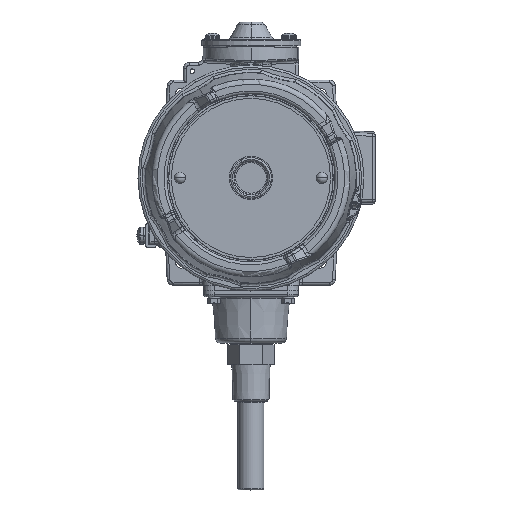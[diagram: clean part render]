
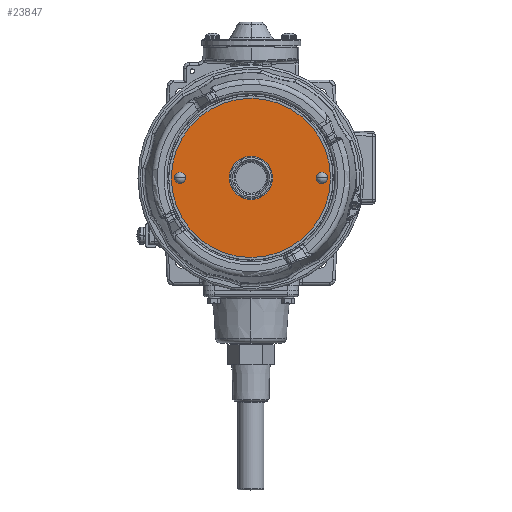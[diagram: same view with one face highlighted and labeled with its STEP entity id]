
A CAD part, top view. The second image highlights one B-rep face of the part: STEP entity #23847.
In plain terms, the highlighted planar face has unit normal (0, 0, 1).
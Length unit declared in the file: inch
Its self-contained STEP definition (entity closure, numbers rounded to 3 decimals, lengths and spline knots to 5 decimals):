
#263 = CARTESIAN_POINT ( 'NONE',  ( -1.719, 0., 4.817 ) ) ;
#1839 = DIRECTION ( 'NONE',  ( 0., 0., 1. ) ) ;
#2752 = PLANE ( 'NONE',  #13941 ) ;
#3371 = EDGE_CURVE ( 'NONE', #27436, #77107, #80394, .T. ) ;
#4897 = CIRCLE ( 'NONE', #46449, 1.71875 ) ;
#5522 = CARTESIAN_POINT ( 'NONE',  ( -1.6095, 0., 4.817 ) ) ;
#7290 = DIRECTION ( 'NONE',  ( 0., 0., 1. ) ) ;
#7582 = EDGE_CURVE ( 'NONE', #26273, #24721, #72925, .T. ) ;
#8219 = DIRECTION ( 'NONE',  ( 0., 0., 1. ) ) ;
#9236 = AXIS2_PLACEMENT_3D ( 'NONE', #37850, #45167, #13489 ) ;
#9256 = CARTESIAN_POINT ( 'NONE',  ( -0.00025, 0., 4.817 ) ) ;
#13128 = DIRECTION ( 'NONE',  ( 1., 0., 0. ) ) ;
#13489 = DIRECTION ( 'NONE',  ( 1., 0., 0. ) ) ;
#13941 = AXIS2_PLACEMENT_3D ( 'NONE', #9256, #45439, #26362 ) ;
#14491 = ORIENTED_EDGE ( 'NONE', *, *, #60547, .T. ) ;
#14707 = CARTESIAN_POINT ( 'NONE',  ( -0.00025, 0., 4.817 ) ) ;
#15907 = EDGE_CURVE ( 'NONE', #61415, #50347, #72195, .T. ) ;
#16745 = CARTESIAN_POINT ( 'NONE',  ( 1.453, 0., 4.817 ) ) ;
#17658 = AXIS2_PLACEMENT_3D ( 'NONE', #25196, #7290, #32086 ) ;
#19207 = ORIENTED_EDGE ( 'NONE', *, *, #15907, .T. ) ;
#20165 = CARTESIAN_POINT ( 'NONE',  ( -0.00025, 0., 4.817 ) ) ;
#20687 = FACE_BOUND ( 'NONE', #25107, .T. ) ;
#20831 = DIRECTION ( 'NONE',  ( 1., 0., 0. ) ) ;
#23355 = DIRECTION ( 'NONE',  ( 0., 0., 1. ) ) ;
#23847 = ADVANCED_FACE ( 'NONE', ( #38936, #33251, #76777, #20687 ), #2752, .T. ) ;
#24721 = VERTEX_POINT ( 'NONE', #33723 ) ;
#25107 = EDGE_LOOP ( 'NONE', ( #45138, #54163 ) ) ;
#25196 = CARTESIAN_POINT ( 'NONE',  ( -0.00025, 0., 4.817 ) ) ;
#25723 = CARTESIAN_POINT ( 'NONE',  ( 0.4685, 0., 4.817 ) ) ;
#25829 = AXIS2_PLACEMENT_3D ( 'NONE', #20165, #1839, #44929 ) ;
#26273 = VERTEX_POINT ( 'NONE', #5522 ) ;
#26362 = DIRECTION ( 'NONE',  ( 1., 0., 0. ) ) ;
#26901 = DIRECTION ( 'NONE',  ( 1., 0., 0. ) ) ;
#26907 = DIRECTION ( 'NONE',  ( 0., 0., 1. ) ) ;
#27356 = EDGE_CURVE ( 'NONE', #57819, #51162, #76460, .T. ) ;
#27436 = VERTEX_POINT ( 'NONE', #66845 ) ;
#32086 = DIRECTION ( 'NONE',  ( 1., 0., 0. ) ) ;
#32196 = CARTESIAN_POINT ( 'NONE',  ( 1.531, 0., 4.817 ) ) ;
#33251 = FACE_OUTER_BOUND ( 'NONE', #41066, .T. ) ;
#33723 = CARTESIAN_POINT ( 'NONE',  ( -1.4535, 0., 4.817 ) ) ;
#33802 = DIRECTION ( 'NONE',  ( 0., 0., 1. ) ) ;
#34759 = EDGE_CURVE ( 'NONE', #24721, #26273, #66475, .T. ) ;
#37850 = CARTESIAN_POINT ( 'NONE',  ( -1.5315, 0., 4.817 ) ) ;
#38273 = ORIENTED_EDGE ( 'NONE', *, *, #7582, .F. ) ;
#38936 = FACE_BOUND ( 'NONE', #71102, .T. ) ;
#41032 = CARTESIAN_POINT ( 'NONE',  ( -1.5315, 0., 4.817 ) ) ;
#41066 = EDGE_LOOP ( 'NONE', ( #14491, #19207 ) ) ;
#41240 = CARTESIAN_POINT ( 'NONE',  ( 1.7185, 0., 4.817 ) ) ;
#44694 = AXIS2_PLACEMENT_3D ( 'NONE', #14707, #33802, #26901 ) ;
#44929 = DIRECTION ( 'NONE',  ( 1., 0., 0. ) ) ;
#45138 = ORIENTED_EDGE ( 'NONE', *, *, #55666, .F. ) ;
#45167 = DIRECTION ( 'NONE',  ( 0., 0., 1. ) ) ;
#45439 = DIRECTION ( 'NONE',  ( 0., 0., 1. ) ) ;
#46005 = CARTESIAN_POINT ( 'NONE',  ( 1.531, 0., 4.817 ) ) ;
#46449 = AXIS2_PLACEMENT_3D ( 'NONE', #61501, #23355, #61109 ) ;
#48717 = ORIENTED_EDGE ( 'NONE', *, *, #34759, .F. ) ;
#50347 = VERTEX_POINT ( 'NONE', #263 ) ;
#51162 = VERTEX_POINT ( 'NONE', #25723 ) ;
#53232 = DIRECTION ( 'NONE',  ( 1., 0., 0. ) ) ;
#54163 = ORIENTED_EDGE ( 'NONE', *, *, #3371, .F. ) ;
#55666 = EDGE_CURVE ( 'NONE', #77107, #27436, #64141, .T. ) ;
#56024 = EDGE_CURVE ( 'NONE', #51162, #57819, #70715, .T. ) ;
#57257 = EDGE_LOOP ( 'NONE', ( #38273, #48717 ) ) ;
#57819 = VERTEX_POINT ( 'NONE', #63129 ) ;
#59332 = DIRECTION ( 'NONE',  ( 0., 0., 1. ) ) ;
#60547 = EDGE_CURVE ( 'NONE', #50347, #61415, #4897, .T. ) ;
#61109 = DIRECTION ( 'NONE',  ( 1., 0., 0. ) ) ;
#61415 = VERTEX_POINT ( 'NONE', #41240 ) ;
#61501 = CARTESIAN_POINT ( 'NONE',  ( -0.00025, 0., 4.817 ) ) ;
#63129 = CARTESIAN_POINT ( 'NONE',  ( -0.469, 0., 4.817 ) ) ;
#63852 = AXIS2_PLACEMENT_3D ( 'NONE', #41032, #59332, #53232 ) ;
#64141 = CIRCLE ( 'NONE', #72118, 0.078 ) ;
#66475 = CIRCLE ( 'NONE', #63852, 0.078 ) ;
#66845 = CARTESIAN_POINT ( 'NONE',  ( 1.609, 0., 4.817 ) ) ;
#70715 = CIRCLE ( 'NONE', #44694, 0.46875 ) ;
#71102 = EDGE_LOOP ( 'NONE', ( #73638, #71794 ) ) ;
#71794 = ORIENTED_EDGE ( 'NONE', *, *, #56024, .F. ) ;
#72118 = AXIS2_PLACEMENT_3D ( 'NONE', #46005, #8219, #13128 ) ;
#72195 = CIRCLE ( 'NONE', #17658, 1.71875 ) ;
#72631 = AXIS2_PLACEMENT_3D ( 'NONE', #32196, #26907, #20831 ) ;
#72925 = CIRCLE ( 'NONE', #9236, 0.078 ) ;
#73638 = ORIENTED_EDGE ( 'NONE', *, *, #27356, .F. ) ;
#76460 = CIRCLE ( 'NONE', #25829, 0.46875 ) ;
#76777 = FACE_BOUND ( 'NONE', #57257, .T. ) ;
#77107 = VERTEX_POINT ( 'NONE', #16745 ) ;
#80394 = CIRCLE ( 'NONE', #72631, 0.078 ) ;
